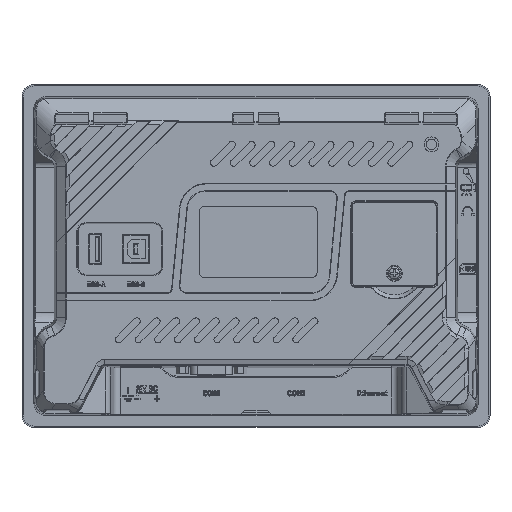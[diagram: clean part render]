
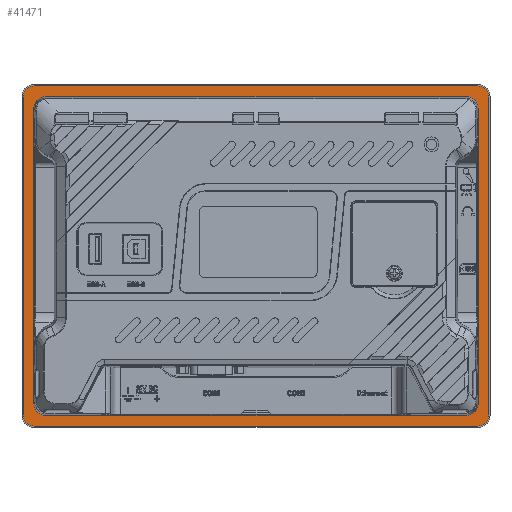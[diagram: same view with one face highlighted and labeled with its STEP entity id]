
A CAD part, front view. The second image highlights one B-rep face of the part: STEP entity #41471.
In plain terms, the highlighted planar face has unit normal (0, -1, 0).
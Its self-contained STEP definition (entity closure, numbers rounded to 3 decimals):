
#2095=DIRECTION('',(-1.,0.,0.));
#2096=VECTOR('',#2095,180.95);
#2097=CARTESIAN_POINT('',(90.475,-1.,
-68.467));
#2098=LINE('',#2097,#2096);
#2273=CARTESIAN_POINT('',(95.3,-1.,68.3));
#2274=DIRECTION('',(0.,1.,0.));
#2275=DIRECTION('',(0.,0.,1.));
#2276=AXIS2_PLACEMENT_3D('',#2273,#2274,#2275);
#2278=CARTESIAN_POINT('',(95.3,-1.,-68.3));
#2279=DIRECTION('',(0.,1.,0.));
#2280=DIRECTION('',(1.,0.,0.));
#2281=AXIS2_PLACEMENT_3D('',#2278,#2279,#2280);
#2283=CARTESIAN_POINT('',(-95.3,-1.,-68.3));
#2284=DIRECTION('',(0.,1.,0.));
#2285=DIRECTION('',(0.,0.,-1.));
#2286=AXIS2_PLACEMENT_3D('',#2283,#2284,#2285);
#2288=CARTESIAN_POINT('',(-95.3,-1.,68.3));
#2289=DIRECTION('',(0.,1.,0.));
#2290=DIRECTION('',(-1.,0.,0.));
#2291=AXIS2_PLACEMENT_3D('',#2288,#2289,#2290);
#2293=CARTESIAN_POINT('',(90.475,-1.,
-68.467));
#2294=CARTESIAN_POINT('',(90.911,-1.,
-68.467));
#2295=CARTESIAN_POINT('',(91.781,-1.,
-68.356));
#2296=CARTESIAN_POINT('',(93.001,-1.,
-67.848));
#2297=CARTESIAN_POINT('',(94.045,-1.,
-67.046));
#2298=CARTESIAN_POINT('',(94.847,-1.,
-66.002));
#2299=CARTESIAN_POINT('',(95.355,-1.,
-64.782));
#2300=CARTESIAN_POINT('',(95.467,-1.,
-63.911));
#2301=CARTESIAN_POINT('',(95.467,-1.,
-63.475));
#2303=CARTESIAN_POINT('',(95.467,-1.,
63.475));
#2304=CARTESIAN_POINT('',(95.467,-1.,
63.911));
#2305=CARTESIAN_POINT('',(95.356,-1.,64.781));
#2306=CARTESIAN_POINT('',(94.848,-1.,
66.002));
#2307=CARTESIAN_POINT('',(94.046,-1.,67.046));
#2308=CARTESIAN_POINT('',(93.002,-1.,
67.848));
#2309=CARTESIAN_POINT('',(91.781,-1.,68.356));
#2310=CARTESIAN_POINT('',(90.911,-1.,
68.467));
#2311=CARTESIAN_POINT('',(90.475,-1.,
68.467));
#2313=CARTESIAN_POINT('',(-90.474,-1.,
68.467));
#2314=CARTESIAN_POINT('',(-90.91,-1.,
68.467));
#2315=CARTESIAN_POINT('',(-91.78,-1.,
68.356));
#2316=CARTESIAN_POINT('',(-93.001,-1.,
67.848));
#2317=CARTESIAN_POINT('',(-94.045,-1.,
67.047));
#2318=CARTESIAN_POINT('',(-94.847,-1.,
66.003));
#2319=CARTESIAN_POINT('',(-95.355,-1.,
64.781));
#2320=CARTESIAN_POINT('',(-95.468,-1.,
63.915));
#2321=CARTESIAN_POINT('',(-95.468,-1.,
63.476));
#2323=CARTESIAN_POINT('',(-95.468,-1.,
-63.476));
#2324=CARTESIAN_POINT('',(-95.468,-1.,
-63.915));
#2325=CARTESIAN_POINT('',(-95.355,-1.,
-64.78));
#2326=CARTESIAN_POINT('',(-94.848,-1.,
-66.003));
#2327=CARTESIAN_POINT('',(-94.046,-1.,
-67.046));
#2328=CARTESIAN_POINT('',(-93.002,-1.,
-67.848));
#2329=CARTESIAN_POINT('',(-91.781,-1.,
-68.356));
#2330=CARTESIAN_POINT('',(-90.911,-1.,
-68.467));
#2331=CARTESIAN_POINT('',(-90.475,-1.,
-68.467));
#6326=DIRECTION('',(-1.,0.,0.));
#6327=VECTOR('',#6326,190.6);
#6328=CARTESIAN_POINT('',(95.3,-1.,73.1));
#6329=LINE('',#6328,#6327);
#6342=DIRECTION('',(0.,0.,-1.));
#6343=VECTOR('',#6342,136.6);
#6344=CARTESIAN_POINT('',(-100.1,-1.,68.3));
#6345=LINE('',#6344,#6343);
#6358=DIRECTION('',(1.,0.,0.));
#6359=VECTOR('',#6358,190.6);
#6360=CARTESIAN_POINT('',(-95.3,-1.,-73.1));
#6361=LINE('',#6360,#6359);
#6374=DIRECTION('',(0.,0.,1.));
#6375=VECTOR('',#6374,136.6);
#6376=CARTESIAN_POINT('',(100.1,-1.,-68.3));
#6377=LINE('',#6376,#6375);
#6424=DIRECTION('',(0.,0.,-1.));
#6425=VECTOR('',#6424,126.95);
#6426=CARTESIAN_POINT('',(95.467,-1.,
63.475));
#6427=LINE('',#6426,#6425);
#12771=DIRECTION('',(0.,0.,1.));
#12772=VECTOR('',#12771,126.952);
#12773=CARTESIAN_POINT('',(-95.468,-1.,
-63.476));
#12774=LINE('',#12773,#12772);
#16185=DIRECTION('',(1.,0.,0.));
#16186=VECTOR('',#16185,180.949);
#16187=CARTESIAN_POINT('',(-90.474,-1.,
68.467));
#16188=LINE('',#16187,#16186);
#32061=CARTESIAN_POINT('',(90.475,-1.,
-68.467));
#32062=CARTESIAN_POINT('',(-90.475,-1.,
-68.467));
#32063=VERTEX_POINT('',#32061);
#32064=VERTEX_POINT('',#32062);
#32274=CARTESIAN_POINT('',(95.3,-1.,73.1));
#32275=CARTESIAN_POINT('',(100.1,-1.,68.3));
#32276=VERTEX_POINT('',#32274);
#32277=VERTEX_POINT('',#32275);
#32278=CARTESIAN_POINT('',(100.1,-1.,-68.3));
#32279=VERTEX_POINT('',#32278);
#32280=CARTESIAN_POINT('',(95.3,-1.,-73.1));
#32281=VERTEX_POINT('',#32280);
#32282=CARTESIAN_POINT('',(-95.3,-1.,-73.1));
#32283=VERTEX_POINT('',#32282);
#32284=CARTESIAN_POINT('',(-100.1,-1.,-68.3));
#32285=VERTEX_POINT('',#32284);
#32286=CARTESIAN_POINT('',(-100.1,-1.,68.3));
#32287=VERTEX_POINT('',#32286);
#32288=CARTESIAN_POINT('',(-95.3,-1.,73.1));
#32289=VERTEX_POINT('',#32288);
#32290=VERTEX_POINT('',#2301);
#32291=CARTESIAN_POINT('',(95.467,-1.,
63.475));
#32292=VERTEX_POINT('',#32291);
#32293=VERTEX_POINT('',#2311);
#32294=CARTESIAN_POINT('',(-90.474,-1.,
68.467));
#32295=VERTEX_POINT('',#32294);
#32296=VERTEX_POINT('',#2321);
#32297=CARTESIAN_POINT('',(-95.468,-1.,
-63.476));
#32298=VERTEX_POINT('',#32297);
#41431=CARTESIAN_POINT('',(0.,-1.,0.));
#41432=DIRECTION('',(0.,-1.,0.));
#41433=DIRECTION('',(-1.,0.,0.));
#41434=AXIS2_PLACEMENT_3D('',#41431,#41432,#41433);
#41435=PLANE('',#41434);
#41437=ORIENTED_EDGE('',*,*,#41436,.T.);
#41439=ORIENTED_EDGE('',*,*,#41438,.F.);
#41441=ORIENTED_EDGE('',*,*,#41440,.T.);
#41443=ORIENTED_EDGE('',*,*,#41442,.F.);
#41445=ORIENTED_EDGE('',*,*,#41444,.T.);
#41447=ORIENTED_EDGE('',*,*,#41446,.F.);
#41449=ORIENTED_EDGE('',*,*,#41448,.T.);
#41451=ORIENTED_EDGE('',*,*,#41450,.F.);
#41452=EDGE_LOOP('',(#41437,#41439,#41441,#41443,#41445,#41447,#41449,#41451));
#41453=FACE_OUTER_BOUND('',#41452,.F.);
#41455=ORIENTED_EDGE('',*,*,#41454,.T.);
#41457=ORIENTED_EDGE('',*,*,#41456,.F.);
#41459=ORIENTED_EDGE('',*,*,#41458,.T.);
#41461=ORIENTED_EDGE('',*,*,#41460,.F.);
#41463=ORIENTED_EDGE('',*,*,#41462,.T.);
#41465=ORIENTED_EDGE('',*,*,#41464,.F.);
#41467=ORIENTED_EDGE('',*,*,#41466,.T.);
#41468=ORIENTED_EDGE('',*,*,#41336,.F.);
#41469=EDGE_LOOP('',(#41455,#41457,#41459,#41461,#41463,#41465,#41467,#41468));
#41470=FACE_BOUND('',#41469,.F.);
#41471=ADVANCED_FACE('',(#41453,#41470),#41435,.T.);
#2277=CIRCLE('',#2276,4.8);
#2282=CIRCLE('',#2281,4.8);
#2287=CIRCLE('',#2286,4.8);
#2292=CIRCLE('',#2291,4.8);
#2302=B_SPLINE_CURVE_WITH_KNOTS('',3,(#2293,#2294,#2295,#2296,#2297,#2298,#2299,
#2300,#2301),.UNSPECIFIED.,.F.,.F.,(4,1,1,1,1,1,4),(0.,0.167,
0.333,0.5,0.667,0.833,1.),
.UNSPECIFIED.);
#2312=B_SPLINE_CURVE_WITH_KNOTS('',3,(#2303,#2304,#2305,#2306,#2307,#2308,#2309,
#2310,#2311),.UNSPECIFIED.,.F.,.F.,(4,1,1,1,1,1,4),(0.,0.167,
0.333,0.5,0.667,0.833,1.),
.UNSPECIFIED.);
#2322=B_SPLINE_CURVE_WITH_KNOTS('',3,(#2313,#2314,#2315,#2316,#2317,#2318,#2319,
#2320,#2321),.UNSPECIFIED.,.F.,.F.,(4,1,1,1,1,1,4),(0.,0.167,
0.333,0.5,0.667,0.833,1.),
.UNSPECIFIED.);
#2332=B_SPLINE_CURVE_WITH_KNOTS('',3,(#2323,#2324,#2325,#2326,#2327,#2328,#2329,
#2330,#2331),.UNSPECIFIED.,.F.,.F.,(4,1,1,1,1,1,4),(0.,0.167,
0.333,0.5,0.667,0.833,1.),
.UNSPECIFIED.);
#41336=EDGE_CURVE('',#32063,#32064,#2098,.T.);
#41436=EDGE_CURVE('',#32276,#32277,#2277,.T.);
#41438=EDGE_CURVE('',#32279,#32277,#6377,.T.);
#41440=EDGE_CURVE('',#32279,#32281,#2282,.T.);
#41442=EDGE_CURVE('',#32283,#32281,#6361,.T.);
#41444=EDGE_CURVE('',#32283,#32285,#2287,.T.);
#41446=EDGE_CURVE('',#32287,#32285,#6345,.T.);
#41448=EDGE_CURVE('',#32287,#32289,#2292,.T.);
#41450=EDGE_CURVE('',#32276,#32289,#6329,.T.);
#41454=EDGE_CURVE('',#32063,#32290,#2302,.T.);
#41456=EDGE_CURVE('',#32292,#32290,#6427,.T.);
#41458=EDGE_CURVE('',#32292,#32293,#2312,.T.);
#41460=EDGE_CURVE('',#32295,#32293,#16188,.T.);
#41462=EDGE_CURVE('',#32295,#32296,#2322,.T.);
#41464=EDGE_CURVE('',#32298,#32296,#12774,.T.);
#41466=EDGE_CURVE('',#32298,#32064,#2332,.T.);
